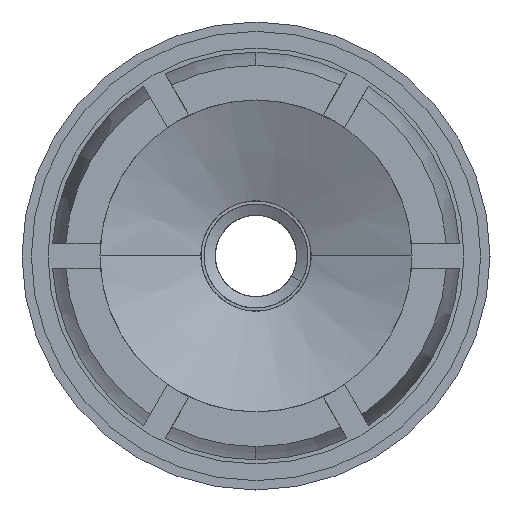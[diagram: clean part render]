
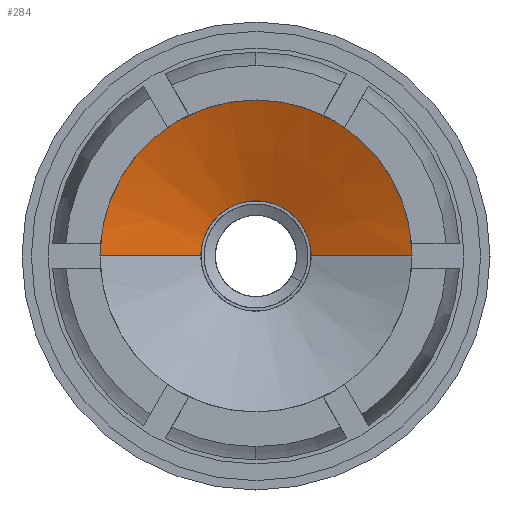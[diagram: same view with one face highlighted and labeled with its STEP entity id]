
A CAD part, left-side view. The second image highlights one B-rep face of the part: STEP entity #284.
In plain terms, the highlighted conical face has half-angle 67.5 degrees and reference radius 2414.21 mm.
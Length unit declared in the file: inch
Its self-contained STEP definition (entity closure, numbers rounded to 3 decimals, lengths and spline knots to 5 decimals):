
#284 = ADVANCED_FACE ( 'NONE', ( #3656 ), #3178, .F. ) ;
#306 = CARTESIAN_POINT ( 'NONE',  ( -0.03217, 0., 0. ) ) ;
#453 = CARTESIAN_POINT ( 'NONE',  ( -0.08726, 0., 0. ) ) ;
#666 = EDGE_CURVE ( 'NONE', #2516, #7153, #4568, .T. ) ;
#1178 = DIRECTION ( 'NONE',  ( 0., -1., 0. ) ) ;
#1877 = AXIS2_PLACEMENT_3D ( 'NONE', #4876, #4822, #4791 ) ;
#2516 = VERTEX_POINT ( 'NONE', #2686 ) ;
#2517 = LINE ( 'NONE', #306, #2736 ) ;
#2686 = CARTESIAN_POINT ( 'NONE',  ( -0.08726, -0.133, 0. ) ) ;
#2736 = VECTOR ( 'NONE', #4668, 39.37008 ) ;
#3081 = EDGE_CURVE ( 'NONE', #5181, #7128, #2517, .T. ) ;
#3178 = CONICAL_SURFACE ( 'NONE', #1877, 95.04778, 1.178 ) ;
#3292 = DIRECTION ( 'NONE',  ( 1., 0., 0. ) ) ;
#3656 = FACE_OUTER_BOUND ( 'NONE', #5052, .T. ) ;
#3682 = EDGE_CURVE ( 'NONE', #7128, #7153, #5628, .T. ) ;
#3735 = CARTESIAN_POINT ( 'NONE',  ( -0.08726, 0., 0. ) ) ;
#3761 = CIRCLE ( 'NONE', #9264, 0.133 ) ;
#3821 = ORIENTED_EDGE ( 'NONE', *, *, #3081, .F. ) ;
#4479 = DIRECTION ( 'NONE',  ( 0., -1., 0. ) ) ;
#4542 = EDGE_CURVE ( 'NONE', #5181, #7684, #3761, .T. ) ;
#4568 = LINE ( 'NONE', #8412, #6568 ) ;
#4668 = DIRECTION ( 'NONE',  ( -0.383, 0.924, 0. ) ) ;
#4791 = DIRECTION ( 'NONE',  ( 0., -1., 0. ) ) ;
#4822 = DIRECTION ( 'NONE',  ( -1., 0., 0. ) ) ;
#4876 = CARTESIAN_POINT ( 'NONE',  ( -39.40225, 0., 0. ) ) ;
#5052 = EDGE_LOOP ( 'NONE', ( #3821, #7783, #7888, #6770, #6614 ) ) ;
#5181 = VERTEX_POINT ( 'NONE', #6160 ) ;
#5554 = DIRECTION ( 'NONE',  ( 1., 0., 0. ) ) ;
#5558 = AXIS2_PLACEMENT_3D ( 'NONE', #453, #5554, #1178 ) ;
#5628 = CIRCLE ( 'NONE', #7833, 0.375 ) ;
#6160 = CARTESIAN_POINT ( 'NONE',  ( -0.08726, 0.133, 0. ) ) ;
#6568 = VECTOR ( 'NONE', #9213, 39.37008 ) ;
#6614 = ORIENTED_EDGE ( 'NONE', *, *, #3682, .F. ) ;
#6750 = CARTESIAN_POINT ( 'NONE',  ( -0.1875, -0.375, 0. ) ) ;
#6770 = ORIENTED_EDGE ( 'NONE', *, *, #666, .T. ) ;
#7128 = VERTEX_POINT ( 'NONE', #8286 ) ;
#7153 = VERTEX_POINT ( 'NONE', #6750 ) ;
#7684 = VERTEX_POINT ( 'NONE', #7828 ) ;
#7783 = ORIENTED_EDGE ( 'NONE', *, *, #4542, .T. ) ;
#7787 = CARTESIAN_POINT ( 'NONE',  ( -0.1875, 0., 0. ) ) ;
#7828 = CARTESIAN_POINT ( 'NONE',  ( -0.08726, 0., 0.133 ) ) ;
#7833 = AXIS2_PLACEMENT_3D ( 'NONE', #7787, #3292, #8557 ) ;
#7888 = ORIENTED_EDGE ( 'NONE', *, *, #9527, .T. ) ;
#8126 = CIRCLE ( 'NONE', #5558, 0.133 ) ;
#8286 = CARTESIAN_POINT ( 'NONE',  ( -0.1875, 0.375, 0. ) ) ;
#8412 = CARTESIAN_POINT ( 'NONE',  ( -0.03217, 0., 0. ) ) ;
#8557 = DIRECTION ( 'NONE',  ( 0., 1., 0. ) ) ;
#9004 = DIRECTION ( 'NONE',  ( 1., 0., 0. ) ) ;
#9213 = DIRECTION ( 'NONE',  ( -0.383, -0.924, 0. ) ) ;
#9264 = AXIS2_PLACEMENT_3D ( 'NONE', #3735, #9004, #4479 ) ;
#9527 = EDGE_CURVE ( 'NONE', #7684, #2516, #8126, .T. ) ;
